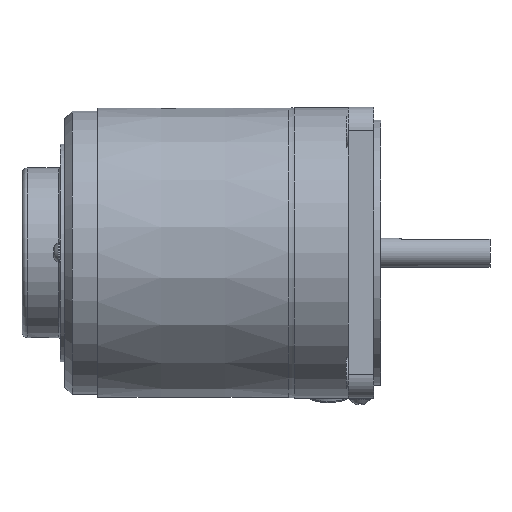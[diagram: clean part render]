
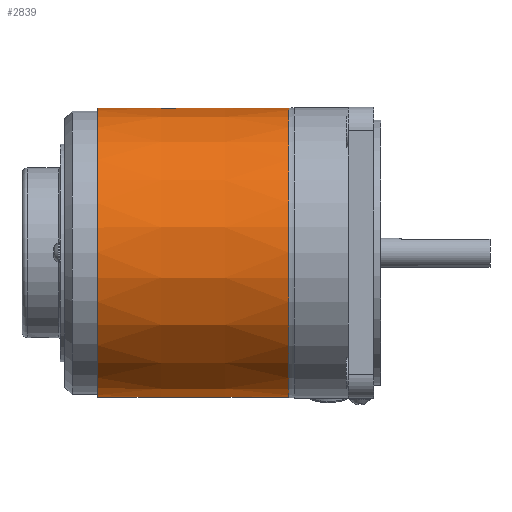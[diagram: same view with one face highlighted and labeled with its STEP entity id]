
A CAD part, top view. The second image highlights one B-rep face of the part: STEP entity #2839.
In plain terms, the highlighted conical face has half-angle 0.073 degrees and reference radius 39.784 mm.
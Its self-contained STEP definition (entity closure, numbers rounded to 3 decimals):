
#19=CONICAL_SURFACE('',#3081,39.784,0.073);
#76=FACE_BOUND('',#613,.T.);
#176=CIRCLE('',#3080,39.75);
#177=CIRCLE('',#3082,39.817);
#407=FACE_OUTER_BOUND('',#612,.T.);
#612=EDGE_LOOP('',(#2171));
#613=EDGE_LOOP('',(#2172));
#1279=VERTEX_POINT('',#4636);
#1280=VERTEX_POINT('',#4639);
#1601=EDGE_CURVE('',#1279,#1279,#176,.T.);
#1602=EDGE_CURVE('',#1280,#1280,#177,.T.);
#2171=ORIENTED_EDGE('',*,*,#1602,.F.);
#2172=ORIENTED_EDGE('',*,*,#1601,.T.);
#2839=ADVANCED_FACE('',(#407,#76),#19,.T.);
#3080=AXIS2_PLACEMENT_3D('',#4637,#3638,#3639);
#3081=AXIS2_PLACEMENT_3D('',#4638,#3640,#3641);
#3082=AXIS2_PLACEMENT_3D('',#4640,#3642,#3643);
#3638=DIRECTION('center_axis',(1.,0.,0.));
#3639=DIRECTION('ref_axis',(0.,1.,0.));
#3640=DIRECTION('center_axis',(1.,0.,0.));
#3641=DIRECTION('ref_axis',(0.,1.,0.));
#3642=DIRECTION('center_axis',(1.,0.,0.));
#3643=DIRECTION('ref_axis',(0.,1.,0.));
#4636=CARTESIAN_POINT('',(9.,39.75,0.));
#4637=CARTESIAN_POINT('Origin',(9.,0.,0.));
#4638=CARTESIAN_POINT('Origin',(35.288,0.,0.));
#4639=CARTESIAN_POINT('',(61.576,39.817,0.));
#4640=CARTESIAN_POINT('Origin',(61.576,0.,0.));
